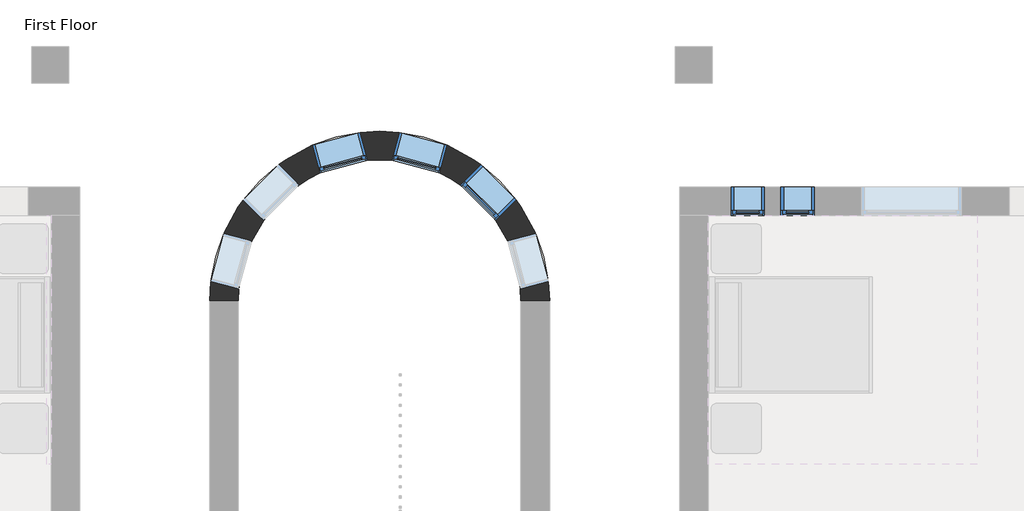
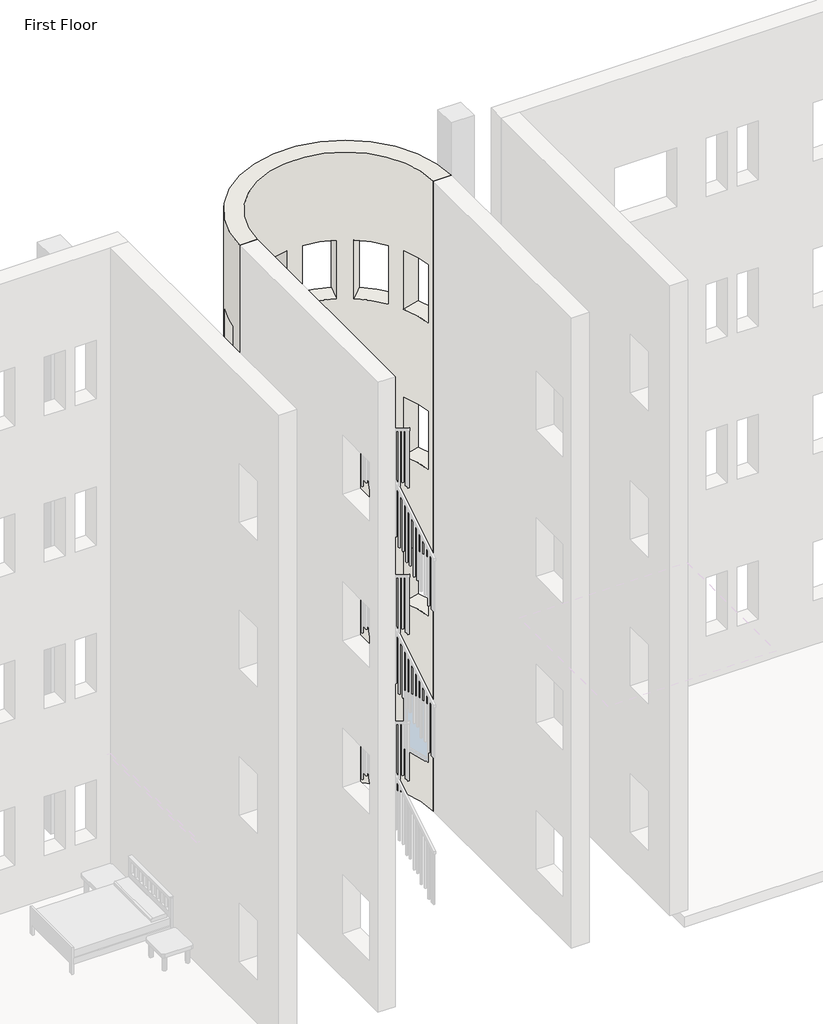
# One storey, part 15 of 22: 5 windows, 1 wall.
"""IFC4 building model written with IfcOpenShell, lengths in millimetres."""

from ifc_helpers import new_model, si_unit, frame, origin, place, context, project, spatial, polyline, circle_curve, transform, mapped, element, save
from ifc_brep_helpers import plane_surface, cylinder_surface, revolved_surface, advanced_brep
from components import m_fixed_0406_x_1220mm_57fee329, m_fixed_0610_x_1220mm_2c28ef1d, m_fixed_0610_x_1220mm_1ea27827

model = new_model("IFC4")

# Units and contexts
model_context = context("Model", 3, world=origin())
ifc_project = project(units=[si_unit("LENGTHUNIT", "METRE", prefix="MILLI")], contexts=[model_context])

# Site, building, storey
site = spatial("IfcSite", under=ifc_project)
building = spatial("IfcBuilding", under=site)
storey = spatial("IfcBuildingStorey", under=building, Name="First Floor", Elevation=0.0)

# Wall
placement = place(None, origin())
element("IfcWall", 1, ObjectType="Exterior - Brick on Mtl. Stud", at=placement, inside=storey, context=model_context, shape_type="AdvancedBrep", body=[
    advanced_brep(
    [(-16877.0916203, 1362.1188386, 13107.0), (-21037.0916203, 1362.1188386, 13107.0), (-20687.0916203, 1362.1188386, 13107.0), (-17227.0916203, 1362.1188386, 13107.0), (-21037.0916203, 1362.1188386, 0.0), (-16877.0916203, 1362.1188386, 0.0), (-17227.0916203, 1362.1188386, 0.0), (-20687.0916203, 1362.1188386, 0.0), (-20865.560337, 2189.250725, 915.0), (-20865.560337, 2189.250725, 2135.0), (-21023.4399545, 1600.035971, 2135.0), (-21023.4399545, 1600.035971, 915.0), (-19195.0087527, 3428.4671728, 915.0), (-19195.0087527, 3428.4671728, 2135.0), (-19784.2235068, 3270.5875553, 2135.0), (-19784.2235068, 3270.5875553, 915.0), (-20196.3080681, 3032.6704229, 915.0), (-20196.3080681, 3032.6704229, 2135.0), (-20627.6432046, 2601.3352863, 2135.0), (-20627.6432046, 2601.3352863, 915.0), (-17717.8751726, 3032.6704229, 915.0), (-17286.5400361, 2601.3352863, 915.0), (-17286.5400361, 2601.3352863, 2135.0), (-17717.8751726, 3032.6704229, 2135.0), (-18719.1744879, 3428.4671728, 915.0), (-18129.9597339, 3270.5875553, 915.0), (-18129.9597339, 3270.5875553, 2135.0), (-18719.1744879, 3428.4671728, 2135.0), (-17048.6229037, 2189.250725, 915.0), (-16890.7432862, 1600.035971, 915.0), (-16890.7432862, 1600.035971, 2135.0), (-17048.6229037, 2189.250725, 2135.0), (-17717.8751726, 3032.6704229, 10059.0), (-17286.5400361, 2601.3352863, 10059.0), (-17286.5400361, 2601.3352863, 11279.0), (-17717.8751726, 3032.6704229, 11279.0), (-18719.1744879, 3428.4671728, 10059.0), (-18129.9597339, 3270.5875553, 10059.0), (-18129.9597339, 3270.5875553, 11279.0), (-18719.1744879, 3428.4671728, 11279.0), (-17048.6229037, 2189.250725, 10059.0), (-16890.7432862, 1600.035971, 10059.0), (-16890.7432862, 1600.035971, 11279.0), (-17048.6229037, 2189.250725, 11279.0), (-20196.3080681, 3032.6704229, 10059.0), (-20196.3080681, 3032.6704229, 11279.0), (-20627.6432046, 2601.3352863, 11279.0), (-20627.6432046, 2601.3352863, 10059.0), (-19195.0087527, 3428.4671728, 10059.0), (-19195.0087527, 3428.4671728, 11279.0), (-19784.2235068, 3270.5875553, 11279.0), (-19784.2235068, 3270.5875553, 10059.0), (-20865.560337, 2189.250725, 10059.0), (-20865.560337, 2189.250725, 11279.0), (-21023.4399545, 1600.035971, 11279.0), (-21023.4399545, 1600.035971, 10059.0), (-17717.8751726, 3032.6704229, 3963.0), (-17286.5400361, 2601.3352863, 3963.0), (-17286.5400361, 2601.3352863, 5183.0), (-17717.8751726, 3032.6704229, 5183.0), (-18719.1744879, 3428.4671728, 3963.0), (-18129.9597339, 3270.5875553, 3963.0), (-18129.9597339, 3270.5875553, 5183.0), (-18719.1744879, 3428.4671728, 5183.0), (-17048.6229037, 2189.250725, 3963.0), (-16890.7432862, 1600.035971, 3963.0), (-16890.7432862, 1600.035971, 5183.0), (-17048.6229037, 2189.250725, 5183.0), (-20196.3080681, 3032.6704229, 3963.0), (-20196.3080681, 3032.6704229, 5183.0), (-20627.6432046, 2601.3352863, 5183.0), (-20627.6432046, 2601.3352863, 3963.0), (-19195.0087527, 3428.4671728, 3963.0), (-19195.0087527, 3428.4671728, 5183.0), (-19784.2235068, 3270.5875553, 5183.0), (-19784.2235068, 3270.5875553, 3963.0), (-20865.560337, 2189.250725, 3963.0), (-20865.560337, 2189.250725, 5183.0), (-21023.4399545, 1600.035971, 5183.0), (-21023.4399545, 1600.035971, 3963.0), (-17717.8751726, 3032.6704229, 7011.0), (-17286.5400361, 2601.3352863, 7011.0), (-17286.5400361, 2601.3352863, 8231.0), (-17717.8751726, 3032.6704229, 8231.0), (-18719.1744879, 3428.4671728, 7011.0), (-18129.9597339, 3270.5875553, 7011.0), (-18129.9597339, 3270.5875553, 8231.0), (-18719.1744879, 3428.4671728, 8231.0), (-17048.6229037, 2189.250725, 7011.0), (-16890.7432862, 1600.035971, 7011.0), (-16890.7432862, 1600.035971, 8231.0), (-17048.6229037, 2189.250725, 8231.0), (-20196.3080681, 3032.6704229, 7011.0), (-20196.3080681, 3032.6704229, 8231.0), (-20627.6432046, 2601.3352863, 8231.0), (-20627.6432046, 2601.3352863, 7011.0), (-19195.0087527, 3428.4671728, 7011.0), (-19195.0087527, 3428.4671728, 8231.0), (-19784.2235068, 3270.5875553, 8231.0), (-19784.2235068, 3270.5875553, 7011.0), (-20865.560337, 2189.250725, 7011.0), (-20865.560337, 2189.250725, 8231.0), (-21023.4399545, 1600.035971, 8231.0), (-21023.4399545, 1600.035971, 7011.0), (-20523.0287702, 2097.4696683, 2135.0), (-20523.0287702, 2097.4696683, 915.0), (-20680.9083877, 1508.2549143, 915.0), (-20680.9083877, 1508.2549143, 2135.0), (-19103.227696, 3085.935606, 2135.0), (-19103.227696, 3085.935606, 915.0), (-19692.44245, 2928.0559884, 915.0), (-19692.44245, 2928.0559884, 2135.0), (-19945.5575579, 2781.9199128, 915.0), (-20376.8926945, 2350.5847762, 915.0), (-20376.8926945, 2350.5847762, 2135.0), (-19945.5575579, 2781.9199128, 2135.0), (-17968.6256827, 2781.9199128, 915.0), (-17968.6256827, 2781.9199128, 2135.0), (-17537.2905462, 2350.5847762, 2135.0), (-17537.2905462, 2350.5847762, 915.0), (-18810.9555446, 3085.935606, 915.0), (-18810.9555446, 3085.935606, 2135.0), (-18221.7407906, 2928.0559884, 2135.0), (-18221.7407906, 2928.0559884, 915.0), (-17391.1544705, 2097.4696683, 915.0), (-17391.1544705, 2097.4696683, 2135.0), (-17233.274853, 1508.2549143, 2135.0), (-17233.274853, 1508.2549143, 915.0), (-17968.6256827, 2781.9199128, 10059.0), (-17968.6256827, 2781.9199128, 11279.0), (-17537.2905462, 2350.5847762, 11279.0), (-17537.2905462, 2350.5847762, 10059.0), (-18810.9555446, 3085.935606, 10059.0), (-18810.9555446, 3085.935606, 11279.0), (-18221.7407906, 2928.0559884, 11279.0), (-18221.7407906, 2928.0559884, 10059.0), (-17391.1544705, 2097.4696683, 10059.0), (-17391.1544705, 2097.4696683, 11279.0), (-17233.274853, 1508.2549143, 11279.0), (-17233.274853, 1508.2549143, 10059.0), (-19945.5575579, 2781.9199128, 10059.0), (-20376.8926945, 2350.5847762, 10059.0), (-20376.8926945, 2350.5847762, 11279.0), (-19945.5575579, 2781.9199128, 11279.0), (-19103.227696, 3085.935606, 10059.0), (-19692.44245, 2928.0559884, 10059.0), (-19692.44245, 2928.0559884, 11279.0), (-19103.227696, 3085.935606, 11279.0), (-20523.0287702, 2097.4696683, 10059.0), (-20680.9083877, 1508.2549143, 10059.0), (-20680.9083877, 1508.2549143, 11279.0), (-20523.0287702, 2097.4696683, 11279.0), (-17968.6256827, 2781.9199128, 3963.0), (-17968.6256827, 2781.9199128, 5183.0), (-17537.2905462, 2350.5847762, 5183.0), (-17537.2905462, 2350.5847762, 3963.0), (-18810.9555446, 3085.935606, 3963.0), (-18810.9555446, 3085.935606, 5183.0), (-18221.7407906, 2928.0559884, 5183.0), (-18221.7407906, 2928.0559884, 3963.0), (-17391.1544705, 2097.4696683, 3963.0), (-17391.1544705, 2097.4696683, 5183.0), (-17233.274853, 1508.2549143, 5183.0), (-17233.274853, 1508.2549143, 3963.0), (-19945.5575579, 2781.9199128, 3963.0), (-20376.8926945, 2350.5847762, 3963.0), (-20376.8926945, 2350.5847762, 5183.0), (-19945.5575579, 2781.9199128, 5183.0), (-19103.227696, 3085.935606, 3963.0), (-19692.44245, 2928.0559884, 3963.0), (-19692.44245, 2928.0559884, 5183.0), (-19103.227696, 3085.935606, 5183.0), (-20523.0287702, 2097.4696683, 3963.0), (-20680.9083877, 1508.2549143, 3963.0), (-20680.9083877, 1508.2549143, 5183.0), (-20523.0287702, 2097.4696683, 5183.0), (-17968.6256827, 2781.9199128, 7011.0), (-17968.6256827, 2781.9199128, 8231.0), (-17537.2905462, 2350.5847762, 8231.0), (-17537.2905462, 2350.5847762, 7011.0), (-18810.9555446, 3085.935606, 7011.0), (-18810.9555446, 3085.935606, 8231.0), (-18221.7407906, 2928.0559884, 8231.0), (-18221.7407906, 2928.0559884, 7011.0), (-17391.1544705, 2097.4696683, 7011.0), (-17391.1544705, 2097.4696683, 8231.0), (-17233.274853, 1508.2549143, 8231.0), (-17233.274853, 1508.2549143, 7011.0), (-19945.5575579, 2781.9199128, 7011.0), (-20376.8926945, 2350.5847762, 7011.0), (-20376.8926945, 2350.5847762, 8231.0), (-19945.5575579, 2781.9199128, 8231.0), (-19103.227696, 3085.935606, 7011.0), (-19692.44245, 2928.0559884, 7011.0), (-19692.44245, 2928.0559884, 8231.0), (-19103.227696, 3085.935606, 8231.0), (-20523.0287702, 2097.4696683, 7011.0), (-20680.9083877, 1508.2549143, 7011.0), (-20680.9083877, 1508.2549143, 8231.0), (-20523.0287702, 2097.4696683, 8231.0)],
    [
        (0, 1, circle_curve(frame((-18957.0916203, 1362.1188386, 13107.0), z_axis=(0.0, 0.0, 1.0), x_axis=(1.0, 0.0, 0.0)), 2080.0)),
        (1, 2),
        (2, 3, circle_curve(frame((-18957.0916203, 1362.1188386, 13107.0), z_axis=(0.0, 0.0, -1.0), x_axis=(1.0, 0.0, 0.0)), 1730.0)),
        (3, 0),
        (4, 5, circle_curve(frame((-18957.0916203, 1362.1188386, 0.0), z_axis=(0.0, 0.0, -1.0), x_axis=(1.0, 0.0, 0.0)), 2080.0)),
        (5, 6),
        (6, 7, circle_curve(frame((-18957.0916203, 1362.1188386, 0.0), z_axis=(0.0, 0.0, 1.0), x_axis=(1.0, 0.0, 0.0)), 1730.0)),
        (7, 4),
        (0, 5),
        (4, 1),
        (8, 9),
        (9, 10, circle_curve(frame((-18957.0916203, 1362.1188386, 2135.0), z_axis=(0.0, 0.0, 1.0), x_axis=(1.0, 0.0, 0.0)), 2080.0)),
        (10, 11),
        (11, 8, circle_curve(frame((-18957.0916203, 1362.1188386, 915.0), z_axis=(0.0, 0.0, -1.0), x_axis=(1.0, 0.0, 0.0)), 2080.0)),
        (12, 13),
        (13, 14, circle_curve(frame((-18957.0916203, 1362.1188386, 2135.0), z_axis=(0.0, 0.0, 1.0), x_axis=(1.0, 0.0, 0.0)), 2080.0)),
        (14, 15),
        (15, 12, circle_curve(frame((-18957.0916203, 1362.1188386, 915.0), z_axis=(0.0, 0.0, -1.0), x_axis=(1.0, 0.0, 0.0)), 2080.0)),
        (16, 17),
        (17, 18, circle_curve(frame((-18957.0916203, 1362.1188386, 2135.0), z_axis=(0.0, 0.0, 1.0), x_axis=(1.0, 0.0, 0.0)), 2080.0)),
        (18, 19),
        (19, 16, circle_curve(frame((-18957.0916203, 1362.1188386, 915.0), z_axis=(0.0, 0.0, -1.0), x_axis=(1.0, 0.0, 0.0)), 2080.0)),
        (20, 21, circle_curve(frame((-18957.0916203, 1362.1188386, 915.0), z_axis=(0.0, 0.0, -1.0), x_axis=(1.0, 0.0, 0.0)), 2080.0)),
        (21, 22),
        (22, 23, circle_curve(frame((-18957.0916203, 1362.1188386, 2135.0), z_axis=(0.0, 0.0, 1.0), x_axis=(1.0, 0.0, 0.0)), 2080.0)),
        (23, 20),
        (24, 25, circle_curve(frame((-18957.0916203, 1362.1188386, 915.0), z_axis=(0.0, 0.0, -1.0), x_axis=(1.0, 0.0, 0.0)), 2080.0)),
        (25, 26),
        (26, 27, circle_curve(frame((-18957.0916203, 1362.1188386, 2135.0), z_axis=(0.0, 0.0, 1.0), x_axis=(1.0, 0.0, 0.0)), 2080.0)),
        (27, 24),
        (28, 29, circle_curve(frame((-18957.0916203, 1362.1188386, 915.0), z_axis=(0.0, 0.0, -1.0), x_axis=(1.0, 0.0, 0.0)), 2080.0)),
        (29, 30),
        (30, 31, circle_curve(frame((-18957.0916203, 1362.1188386, 2135.0), z_axis=(0.0, 0.0, 1.0), x_axis=(1.0, 0.0, 0.0)), 2080.0)),
        (31, 28),
        (32, 33, circle_curve(frame((-18957.0916203, 1362.1188386, 10059.0), z_axis=(0.0, 0.0, -1.0), x_axis=(1.0, 0.0, 0.0)), 2080.0)),
        (33, 34),
        (34, 35, circle_curve(frame((-18957.0916203, 1362.1188386, 11279.0), z_axis=(0.0, 0.0, 1.0), x_axis=(1.0, 0.0, 0.0)), 2080.0)),
        (35, 32),
        (36, 37, circle_curve(frame((-18957.0916203, 1362.1188386, 10059.0), z_axis=(0.0, 0.0, -1.0), x_axis=(1.0, 0.0, 0.0)), 2080.0)),
        (37, 38),
        (38, 39, circle_curve(frame((-18957.0916203, 1362.1188386, 11279.0), z_axis=(0.0, 0.0, 1.0), x_axis=(1.0, 0.0, 0.0)), 2080.0)),
        (39, 36),
        (40, 41, circle_curve(frame((-18957.0916203, 1362.1188386, 10059.0), z_axis=(0.0, 0.0, -1.0), x_axis=(1.0, 0.0, 0.0)), 2080.0)),
        (41, 42),
        (42, 43, circle_curve(frame((-18957.0916203, 1362.1188386, 11279.0), z_axis=(0.0, 0.0, 1.0), x_axis=(1.0, 0.0, 0.0)), 2080.0)),
        (43, 40),
        (44, 45),
        (45, 46, circle_curve(frame((-18957.0916203, 1362.1188386, 11279.0), z_axis=(0.0, 0.0, 1.0), x_axis=(1.0, 0.0, 0.0)), 2080.0)),
        (46, 47),
        (47, 44, circle_curve(frame((-18957.0916203, 1362.1188386, 10059.0), z_axis=(0.0, 0.0, -1.0), x_axis=(1.0, 0.0, 0.0)), 2080.0)),
        (48, 49),
        (49, 50, circle_curve(frame((-18957.0916203, 1362.1188386, 11279.0), z_axis=(0.0, 0.0, 1.0), x_axis=(1.0, 0.0, 0.0)), 2080.0)),
        (50, 51),
        (51, 48, circle_curve(frame((-18957.0916203, 1362.1188386, 10059.0), z_axis=(0.0, 0.0, -1.0), x_axis=(1.0, 0.0, 0.0)), 2080.0)),
        (52, 53),
        (53, 54, circle_curve(frame((-18957.0916203, 1362.1188386, 11279.0), z_axis=(0.0, 0.0, 1.0), x_axis=(1.0, 0.0, 0.0)), 2080.0)),
        (54, 55),
        (55, 52, circle_curve(frame((-18957.0916203, 1362.1188386, 10059.0), z_axis=(0.0, 0.0, -1.0), x_axis=(1.0, 0.0, 0.0)), 2080.0)),
        (56, 57, circle_curve(frame((-18957.0916203, 1362.1188386, 3963.0), z_axis=(0.0, 0.0, -1.0), x_axis=(1.0, 0.0, 0.0)), 2080.0)),
        (57, 58),
        (58, 59, circle_curve(frame((-18957.0916203, 1362.1188386, 5183.0), z_axis=(0.0, 0.0, 1.0), x_axis=(1.0, 0.0, 0.0)), 2080.0)),
        (59, 56),
        (60, 61, circle_curve(frame((-18957.0916203, 1362.1188386, 3963.0), z_axis=(0.0, 0.0, -1.0), x_axis=(1.0, 0.0, 0.0)), 2080.0)),
        (61, 62),
        (62, 63, circle_curve(frame((-18957.0916203, 1362.1188386, 5183.0), z_axis=(0.0, 0.0, 1.0), x_axis=(1.0, 0.0, 0.0)), 2080.0)),
        (63, 60),
        (64, 65, circle_curve(frame((-18957.0916203, 1362.1188386, 3963.0), z_axis=(0.0, 0.0, -1.0), x_axis=(1.0, 0.0, 0.0)), 2080.0)),
        (65, 66),
        (66, 67, circle_curve(frame((-18957.0916203, 1362.1188386, 5183.0), z_axis=(0.0, 0.0, 1.0), x_axis=(1.0, 0.0, 0.0)), 2080.0)),
        (67, 64),
        (68, 69),
        (69, 70, circle_curve(frame((-18957.0916203, 1362.1188386, 5183.0), z_axis=(0.0, 0.0, 1.0), x_axis=(1.0, 0.0, 0.0)), 2080.0)),
        (70, 71),
        (71, 68, circle_curve(frame((-18957.0916203, 1362.1188386, 3963.0), z_axis=(0.0, 0.0, -1.0), x_axis=(1.0, 0.0, 0.0)), 2080.0)),
        (72, 73),
        (73, 74, circle_curve(frame((-18957.0916203, 1362.1188386, 5183.0), z_axis=(0.0, 0.0, 1.0), x_axis=(1.0, 0.0, 0.0)), 2080.0)),
        (74, 75),
        (75, 72, circle_curve(frame((-18957.0916203, 1362.1188386, 3963.0), z_axis=(0.0, 0.0, -1.0), x_axis=(1.0, 0.0, 0.0)), 2080.0)),
        (76, 77),
        (77, 78, circle_curve(frame((-18957.0916203, 1362.1188386, 5183.0), z_axis=(0.0, 0.0, 1.0), x_axis=(1.0, 0.0, 0.0)), 2080.0)),
        (78, 79),
        (79, 76, circle_curve(frame((-18957.0916203, 1362.1188386, 3963.0), z_axis=(0.0, 0.0, -1.0), x_axis=(1.0, 0.0, 0.0)), 2080.0)),
        (80, 81, circle_curve(frame((-18957.0916203, 1362.1188386, 7011.0), z_axis=(0.0, 0.0, -1.0), x_axis=(1.0, 0.0, 0.0)), 2080.0)),
        (81, 82),
        (82, 83, circle_curve(frame((-18957.0916203, 1362.1188386, 8231.0), z_axis=(0.0, 0.0, 1.0), x_axis=(1.0, 0.0, 0.0)), 2080.0)),
        (83, 80),
        (84, 85, circle_curve(frame((-18957.0916203, 1362.1188386, 7011.0), z_axis=(0.0, 0.0, -1.0), x_axis=(1.0, 0.0, 0.0)), 2080.0)),
        (85, 86),
        (86, 87, circle_curve(frame((-18957.0916203, 1362.1188386, 8231.0), z_axis=(0.0, 0.0, 1.0), x_axis=(1.0, 0.0, 0.0)), 2080.0)),
        (87, 84),
        (88, 89, circle_curve(frame((-18957.0916203, 1362.1188386, 7011.0), z_axis=(0.0, 0.0, -1.0), x_axis=(1.0, 0.0, 0.0)), 2080.0)),
        (89, 90),
        (90, 91, circle_curve(frame((-18957.0916203, 1362.1188386, 8231.0), z_axis=(0.0, 0.0, 1.0), x_axis=(1.0, 0.0, 0.0)), 2080.0)),
        (91, 88),
        (92, 93),
        (93, 94, circle_curve(frame((-18957.0916203, 1362.1188386, 8231.0), z_axis=(0.0, 0.0, 1.0), x_axis=(1.0, 0.0, 0.0)), 2080.0)),
        (94, 95),
        (95, 92, circle_curve(frame((-18957.0916203, 1362.1188386, 7011.0), z_axis=(0.0, 0.0, -1.0), x_axis=(1.0, 0.0, 0.0)), 2080.0)),
        (96, 97),
        (97, 98, circle_curve(frame((-18957.0916203, 1362.1188386, 8231.0), z_axis=(0.0, 0.0, 1.0), x_axis=(1.0, 0.0, 0.0)), 2080.0)),
        (98, 99),
        (99, 96, circle_curve(frame((-18957.0916203, 1362.1188386, 7011.0), z_axis=(0.0, 0.0, -1.0), x_axis=(1.0, 0.0, 0.0)), 2080.0)),
        (100, 101),
        (101, 102, circle_curve(frame((-18957.0916203, 1362.1188386, 8231.0), z_axis=(0.0, 0.0, 1.0), x_axis=(1.0, 0.0, 0.0)), 2080.0)),
        (102, 103),
        (103, 100, circle_curve(frame((-18957.0916203, 1362.1188386, 7011.0), z_axis=(0.0, 0.0, -1.0), x_axis=(1.0, 0.0, 0.0)), 2080.0)),
        (7, 2),
        (6, 3),
        (104, 105),
        (105, 106, circle_curve(frame((-18957.0916203, 1362.1188386, 915.0), z_axis=(0.0, 0.0, 1.0), x_axis=(1.0, 0.0, 0.0)), 1730.0)),
        (106, 107),
        (107, 104, circle_curve(frame((-18957.0916203, 1362.1188386, 2135.0), z_axis=(0.0, 0.0, -1.0), x_axis=(1.0, 0.0, 0.0)), 1730.0)),
        (108, 109),
        (109, 110, circle_curve(frame((-18957.0916203, 1362.1188386, 915.0), z_axis=(0.0, 0.0, 1.0), x_axis=(1.0, 0.0, 0.0)), 1730.0)),
        (110, 111),
        (111, 108, circle_curve(frame((-18957.0916203, 1362.1188386, 2135.0), z_axis=(0.0, 0.0, -1.0), x_axis=(1.0, 0.0, 0.0)), 1730.0)),
        (112, 113, circle_curve(frame((-18957.0916203, 1362.1188386, 915.0), z_axis=(0.0, 0.0, 1.0), x_axis=(1.0, 0.0, 0.0)), 1730.0)),
        (113, 114),
        (114, 115, circle_curve(frame((-18957.0916203, 1362.1188386, 2135.0), z_axis=(0.0, 0.0, -1.0), x_axis=(1.0, 0.0, 0.0)), 1730.0)),
        (115, 112),
        (116, 117),
        (117, 118, circle_curve(frame((-18957.0916203, 1362.1188386, 2135.0), z_axis=(0.0, 0.0, -1.0), x_axis=(1.0, 0.0, 0.0)), 1730.0)),
        (118, 119),
        (119, 116, circle_curve(frame((-18957.0916203, 1362.1188386, 915.0), z_axis=(0.0, 0.0, 1.0), x_axis=(1.0, 0.0, 0.0)), 1730.0)),
        (120, 121),
        (121, 122, circle_curve(frame((-18957.0916203, 1362.1188386, 2135.0), z_axis=(0.0, 0.0, -1.0), x_axis=(1.0, 0.0, 0.0)), 1730.0)),
        (122, 123),
        (123, 120, circle_curve(frame((-18957.0916203, 1362.1188386, 915.0), z_axis=(0.0, 0.0, 1.0), x_axis=(1.0, 0.0, 0.0)), 1730.0)),
        (124, 125),
        (125, 126, circle_curve(frame((-18957.0916203, 1362.1188386, 2135.0), z_axis=(0.0, 0.0, -1.0), x_axis=(1.0, 0.0, 0.0)), 1730.0)),
        (126, 127),
        (127, 124, circle_curve(frame((-18957.0916203, 1362.1188386, 915.0), z_axis=(0.0, 0.0, 1.0), x_axis=(1.0, 0.0, 0.0)), 1730.0)),
        (128, 129),
        (129, 130, circle_curve(frame((-18957.0916203, 1362.1188386, 11279.0), z_axis=(0.0, 0.0, -1.0), x_axis=(1.0, 0.0, 0.0)), 1730.0)),
        (130, 131),
        (131, 128, circle_curve(frame((-18957.0916203, 1362.1188386, 10059.0), z_axis=(0.0, 0.0, 1.0), x_axis=(1.0, 0.0, 0.0)), 1730.0)),
        (132, 133),
        (133, 134, circle_curve(frame((-18957.0916203, 1362.1188386, 11279.0), z_axis=(0.0, 0.0, -1.0), x_axis=(1.0, 0.0, 0.0)), 1730.0)),
        (134, 135),
        (135, 132, circle_curve(frame((-18957.0916203, 1362.1188386, 10059.0), z_axis=(0.0, 0.0, 1.0), x_axis=(1.0, 0.0, 0.0)), 1730.0)),
        (136, 137),
        (137, 138, circle_curve(frame((-18957.0916203, 1362.1188386, 11279.0), z_axis=(0.0, 0.0, -1.0), x_axis=(1.0, 0.0, 0.0)), 1730.0)),
        (138, 139),
        (139, 136, circle_curve(frame((-18957.0916203, 1362.1188386, 10059.0), z_axis=(0.0, 0.0, 1.0), x_axis=(1.0, 0.0, 0.0)), 1730.0)),
        (140, 141, circle_curve(frame((-18957.0916203, 1362.1188386, 10059.0), z_axis=(0.0, 0.0, 1.0), x_axis=(1.0, 0.0, 0.0)), 1730.0)),
        (141, 142),
        (142, 143, circle_curve(frame((-18957.0916203, 1362.1188386, 11279.0), z_axis=(0.0, 0.0, -1.0), x_axis=(1.0, 0.0, 0.0)), 1730.0)),
        (143, 140),
        (144, 145, circle_curve(frame((-18957.0916203, 1362.1188386, 10059.0), z_axis=(0.0, 0.0, 1.0), x_axis=(1.0, 0.0, 0.0)), 1730.0)),
        (145, 146),
        (146, 147, circle_curve(frame((-18957.0916203, 1362.1188386, 11279.0), z_axis=(0.0, 0.0, -1.0), x_axis=(1.0, 0.0, 0.0)), 1730.0)),
        (147, 144),
        (148, 149, circle_curve(frame((-18957.0916203, 1362.1188386, 10059.0), z_axis=(0.0, 0.0, 1.0), x_axis=(1.0, 0.0, 0.0)), 1730.0)),
        (149, 150),
        (150, 151, circle_curve(frame((-18957.0916203, 1362.1188386, 11279.0), z_axis=(0.0, 0.0, -1.0), x_axis=(1.0, 0.0, 0.0)), 1730.0)),
        (151, 148),
        (152, 153),
        (153, 154, circle_curve(frame((-18957.0916203, 1362.1188386, 5183.0), z_axis=(0.0, 0.0, -1.0), x_axis=(1.0, 0.0, 0.0)), 1730.0)),
        (154, 155),
        (155, 152, circle_curve(frame((-18957.0916203, 1362.1188386, 3963.0), z_axis=(0.0, 0.0, 1.0), x_axis=(1.0, 0.0, 0.0)), 1730.0)),
        (156, 157),
        (157, 158, circle_curve(frame((-18957.0916203, 1362.1188386, 5183.0), z_axis=(0.0, 0.0, -1.0), x_axis=(1.0, 0.0, 0.0)), 1730.0)),
        (158, 159),
        (159, 156, circle_curve(frame((-18957.0916203, 1362.1188386, 3963.0), z_axis=(0.0, 0.0, 1.0), x_axis=(1.0, 0.0, 0.0)), 1730.0)),
        (160, 161),
        (161, 162, circle_curve(frame((-18957.0916203, 1362.1188386, 5183.0), z_axis=(0.0, 0.0, -1.0), x_axis=(1.0, 0.0, 0.0)), 1730.0)),
        (162, 163),
        (163, 160, circle_curve(frame((-18957.0916203, 1362.1188386, 3963.0), z_axis=(0.0, 0.0, 1.0), x_axis=(1.0, 0.0, 0.0)), 1730.0)),
        (164, 165, circle_curve(frame((-18957.0916203, 1362.1188386, 3963.0), z_axis=(0.0, 0.0, 1.0), x_axis=(1.0, 0.0, 0.0)), 1730.0)),
        (165, 166),
        (166, 167, circle_curve(frame((-18957.0916203, 1362.1188386, 5183.0), z_axis=(0.0, 0.0, -1.0), x_axis=(1.0, 0.0, 0.0)), 1730.0)),
        (167, 164),
        (168, 169, circle_curve(frame((-18957.0916203, 1362.1188386, 3963.0), z_axis=(0.0, 0.0, 1.0), x_axis=(1.0, 0.0, 0.0)), 1730.0)),
        (169, 170),
        (170, 171, circle_curve(frame((-18957.0916203, 1362.1188386, 5183.0), z_axis=(0.0, 0.0, -1.0), x_axis=(1.0, 0.0, 0.0)), 1730.0)),
        (171, 168),
        (172, 173, circle_curve(frame((-18957.0916203, 1362.1188386, 3963.0), z_axis=(0.0, 0.0, 1.0), x_axis=(1.0, 0.0, 0.0)), 1730.0)),
        (173, 174),
        (174, 175, circle_curve(frame((-18957.0916203, 1362.1188386, 5183.0), z_axis=(0.0, 0.0, -1.0), x_axis=(1.0, 0.0, 0.0)), 1730.0)),
        (175, 172),
        (176, 177),
        (177, 178, circle_curve(frame((-18957.0916203, 1362.1188386, 8231.0), z_axis=(0.0, 0.0, -1.0), x_axis=(1.0, 0.0, 0.0)), 1730.0)),
        (178, 179),
        (179, 176, circle_curve(frame((-18957.0916203, 1362.1188386, 7011.0), z_axis=(0.0, 0.0, 1.0), x_axis=(1.0, 0.0, 0.0)), 1730.0)),
        (180, 181),
        (181, 182, circle_curve(frame((-18957.0916203, 1362.1188386, 8231.0), z_axis=(0.0, 0.0, -1.0), x_axis=(1.0, 0.0, 0.0)), 1730.0)),
        (182, 183),
        (183, 180, circle_curve(frame((-18957.0916203, 1362.1188386, 7011.0), z_axis=(0.0, 0.0, 1.0), x_axis=(1.0, 0.0, 0.0)), 1730.0)),
        (184, 185),
        (185, 186, circle_curve(frame((-18957.0916203, 1362.1188386, 8231.0), z_axis=(0.0, 0.0, -1.0), x_axis=(1.0, 0.0, 0.0)), 1730.0)),
        (186, 187),
        (187, 184, circle_curve(frame((-18957.0916203, 1362.1188386, 7011.0), z_axis=(0.0, 0.0, 1.0), x_axis=(1.0, 0.0, 0.0)), 1730.0)),
        (188, 189, circle_curve(frame((-18957.0916203, 1362.1188386, 7011.0), z_axis=(0.0, 0.0, 1.0), x_axis=(1.0, 0.0, 0.0)), 1730.0)),
        (189, 190),
        (190, 191, circle_curve(frame((-18957.0916203, 1362.1188386, 8231.0), z_axis=(0.0, 0.0, -1.0), x_axis=(1.0, 0.0, 0.0)), 1730.0)),
        (191, 188),
        (192, 193, circle_curve(frame((-18957.0916203, 1362.1188386, 7011.0), z_axis=(0.0, 0.0, 1.0), x_axis=(1.0, 0.0, 0.0)), 1730.0)),
        (193, 194),
        (194, 195, circle_curve(frame((-18957.0916203, 1362.1188386, 8231.0), z_axis=(0.0, 0.0, -1.0), x_axis=(1.0, 0.0, 0.0)), 1730.0)),
        (195, 192),
        (196, 197, circle_curve(frame((-18957.0916203, 1362.1188386, 7011.0), z_axis=(0.0, 0.0, 1.0), x_axis=(1.0, 0.0, 0.0)), 1730.0)),
        (197, 198),
        (198, 199, circle_curve(frame((-18957.0916203, 1362.1188386, 8231.0), z_axis=(0.0, 0.0, -1.0), x_axis=(1.0, 0.0, 0.0)), 1730.0)),
        (199, 196),
        (8, 105),
        (104, 9),
        (107, 10),
        (106, 11),
        (12, 109),
        (108, 13),
        (111, 14),
        (110, 15),
        (16, 112),
        (115, 17),
        (114, 18),
        (113, 19),
        (116, 20),
        (23, 117),
        (22, 118),
        (21, 119),
        (120, 24),
        (27, 121),
        (26, 122),
        (25, 123),
        (124, 28),
        (31, 125),
        (30, 126),
        (29, 127),
        (128, 32),
        (35, 129),
        (34, 130),
        (33, 131),
        (132, 36),
        (39, 133),
        (38, 134),
        (37, 135),
        (136, 40),
        (43, 137),
        (42, 138),
        (41, 139),
        (44, 140),
        (143, 45),
        (142, 46),
        (141, 47),
        (48, 144),
        (147, 49),
        (146, 50),
        (145, 51),
        (52, 148),
        (151, 53),
        (150, 54),
        (149, 55),
        (152, 56),
        (59, 153),
        (58, 154),
        (57, 155),
        (156, 60),
        (63, 157),
        (62, 158),
        (61, 159),
        (160, 64),
        (67, 161),
        (66, 162),
        (65, 163),
        (68, 164),
        (167, 69),
        (166, 70),
        (165, 71),
        (72, 168),
        (171, 73),
        (170, 74),
        (169, 75),
        (76, 172),
        (175, 77),
        (174, 78),
        (173, 79),
        (176, 80),
        (83, 177),
        (82, 178),
        (81, 179),
        (180, 84),
        (87, 181),
        (86, 182),
        (85, 183),
        (184, 88),
        (91, 185),
        (90, 186),
        (89, 187),
        (92, 188),
        (191, 93),
        (190, 94),
        (189, 95),
        (96, 192),
        (195, 97),
        (194, 98),
        (193, 99),
        (100, 196),
        (199, 101),
        (198, 102),
        (197, 103),
    ],
    [
        plane_surface(frame((-16877.0916203, 1362.1188386, 13107.0), z_axis=(0.0, 0.0, 1.0), x_axis=(0.0, 1.0, 0.0))),
        plane_surface(frame((-16877.0916203, 1362.1188386, 0.0), z_axis=(0.0, 0.0, -1.0), x_axis=(0.0, -1.0, 0.0))),
        cylinder_surface(frame((-18957.0916203, 1362.1188386, 0.0), z_axis=(0.0, 0.0, 1.0), x_axis=(1.0, 0.0, 0.0)), 2080.0),
        plane_surface(frame((-21037.0916203, 1362.1188386, 13107.0), z_axis=(0.0, -1.0, 0.0), x_axis=(0.0, 0.0, -1.0))),
        revolved_surface(polyline([(-17227.0916203, 1362.1188386, 0.0), (-17227.0916203, 1362.1188386, 13107.0)]), (-18957.0916203, 1362.1188386, 0.0), (0.0, 0.0, -1.0)),
        plane_surface(frame((-17227.0916203, 1362.1188386, 13107.0), z_axis=(0.0, -1.0, 0.0), x_axis=(0.0, 0.0, -1.0))),
        plane_surface(frame((-20865.560337, 2189.250725, 915.0), z_axis=(-0.2588190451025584, -0.9659258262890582, 0.0), x_axis=(0.9659258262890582, -0.2588190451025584, 0.0))),
        plane_surface(frame((-20865.560337, 2189.250725, 2135.0), z_axis=(0.0, 0.0, -1.0000000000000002), x_axis=(0.9659258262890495, -0.25881904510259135, 0.0))),
        plane_surface(frame((-21023.4399545, 1600.035971, 2135.0), z_axis=(0.25881904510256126, 0.9659258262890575, 0.0), x_axis=(0.9659258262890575, -0.25881904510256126, 0.0))),
        plane_surface(frame((-21023.4399545, 1600.035971, 915.0), z_axis=(0.0, 0.0, 1.0), x_axis=(0.96592582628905, -0.258819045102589, 0.0))),
        plane_surface(frame((-18800.568528, 1956.3962135, 915.0), z_axis=(-0.9659258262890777, -0.25881904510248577, 0.0), x_axis=(-0.25881904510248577, 0.9659258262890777, 0.0))),
        plane_surface(frame((-18800.568528, 1956.3962135, 2135.0), z_axis=(0.0, 0.0, -1.0000000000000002), x_axis=(-0.25881904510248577, 0.9659258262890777, 0.0))),
        plane_surface(frame((-19389.783282, 1798.516596, 2135.0), z_axis=(0.9659258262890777, 0.25881904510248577, 0.0), x_axis=(-0.25881904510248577, 0.9659258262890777, 0.0))),
        plane_surface(frame((-19389.783282, 1798.516596, 915.0), z_axis=(0.0, 0.0, 1.0000000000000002), x_axis=(-0.25881904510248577, 0.9659258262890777, 0.0))),
        plane_surface(frame((-20196.3080681, 3032.6704229, 915.0), z_axis=(-0.7071067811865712, -0.7071067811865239, 0.0), x_axis=(0.7071067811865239, -0.7071067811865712, 0.0))),
        plane_surface(frame((-20196.3080681, 3032.6704229, 2135.0), z_axis=(0.0, 0.0, -1.0), x_axis=(0.7071067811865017, -0.7071067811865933, 0.0))),
        plane_surface(frame((-20627.6432046, 2601.3352863, 2135.0), z_axis=(0.7071067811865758, 0.7071067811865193, 0.0), x_axis=(0.7071067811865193, -0.7071067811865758, 0.0))),
        plane_surface(frame((-20627.6432046, 2601.3352863, 915.0), z_axis=(0.0, 0.0, 1.0), x_axis=(0.7071067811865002, -0.7071067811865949, 0.0))),
        plane_surface(frame((-17968.6256827, 2781.9199128, 915.0), z_axis=(0.7071067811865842, -0.7071067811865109, 0.0), x_axis=(0.7071067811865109, 0.7071067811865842, 0.0))),
        plane_surface(frame((-17968.6256827, 2781.9199128, 2135.0), z_axis=(0.0, 0.0, -1.0000000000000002), x_axis=(0.7071067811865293, 0.7071067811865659, 0.0))),
        plane_surface(frame((-17537.2905462, 2350.5847762, 2135.0), z_axis=(-0.707106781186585, 0.7071067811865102, 0.0), x_axis=(0.7071067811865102, 0.707106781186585, 0.0))),
        plane_surface(frame((-17537.2905462, 2350.5847762, 915.0), z_axis=(0.0, 0.0, 1.0), x_axis=(0.7071067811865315, 0.7071067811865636, 0.0))),
        plane_surface(frame((-18810.9555446, 3085.935606, 915.0), z_axis=(0.965925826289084, -0.25881904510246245, 0.0), x_axis=(0.25881904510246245, 0.965925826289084, 0.0))),
        plane_surface(frame((-18810.9555446, 3085.935606, 2135.0), z_axis=(0.0, 0.0, -1.0), x_axis=(0.2588190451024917, 0.9659258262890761, 0.0))),
        plane_surface(frame((-18221.7407906, 2928.0559884, 2135.0), z_axis=(-0.9659258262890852, 0.2588190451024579, 0.0), x_axis=(0.2588190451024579, 0.9659258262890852, 0.0))),
        plane_surface(frame((-18221.7407906, 2928.0559884, 915.0), z_axis=(0.0, 0.0, 1.0000000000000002), x_axis=(0.2588190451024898, 0.9659258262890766, 0.0))),
        plane_surface(frame((-17391.1544705, 2097.4696683, 915.0), z_axis=(0.25881904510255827, -0.9659258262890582, 0.0), x_axis=(0.9659258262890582, 0.25881904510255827, 0.0))),
        plane_surface(frame((-17391.1544705, 2097.4696683, 2135.0), z_axis=(0.0, 0.0, -1.0), x_axis=(0.9659258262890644, 0.25881904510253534, 0.0))),
        plane_surface(frame((-17233.274853, 1508.2549143, 2135.0), z_axis=(-0.2588190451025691, 0.9659258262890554, 0.0), x_axis=(0.9659258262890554, 0.2588190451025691, 0.0))),
        plane_surface(frame((-17233.274853, 1508.2549143, 915.0), z_axis=(0.0, 0.0, 1.0), x_axis=(0.9659258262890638, 0.2588190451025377, 0.0))),
        plane_surface(frame((-17968.6256827, 2781.9199128, 10059.0), z_axis=(0.7071067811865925, -0.7071067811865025, 0.0), x_axis=(0.7071067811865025, 0.7071067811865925, 0.0))),
        plane_surface(frame((-17968.6256827, 2781.9199128, 11279.0), z_axis=(0.0, 0.0, -1.0000000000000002), x_axis=(0.7071067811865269, 0.7071067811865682, 0.0))),
        plane_surface(frame((-17537.2905462, 2350.5847762, 11279.0), z_axis=(-0.7071067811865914, 0.7071067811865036, 0.0), x_axis=(0.7071067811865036, 0.7071067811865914, 0.0))),
        plane_surface(frame((-17537.2905462, 2350.5847762, 10059.0), z_axis=(0.0, 0.0, 1.0000000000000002), x_axis=(0.7071067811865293, 0.7071067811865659, 0.0))),
        plane_surface(frame((-18810.9555446, 3085.935606, 10059.0), z_axis=(0.9659258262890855, -0.2588190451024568, 0.0), x_axis=(0.2588190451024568, 0.9659258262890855, 0.0))),
        plane_surface(frame((-18810.9555446, 3085.935606, 11279.0), z_axis=(0.0, 0.0, -1.0), x_axis=(0.2588190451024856, 0.9659258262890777, 0.0))),
        plane_surface(frame((-18221.7407906, 2928.0559884, 11279.0), z_axis=(-0.9659258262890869, 0.25881904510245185, 0.0), x_axis=(0.25881904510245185, 0.9659258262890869, 0.0))),
        plane_surface(frame((-18221.7407906, 2928.0559884, 10059.0), z_axis=(0.0, 0.0, 1.0000000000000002), x_axis=(0.2588190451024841, 0.9659258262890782, 0.0))),
        plane_surface(frame((-17391.1544705, 2097.4696683, 10059.0), z_axis=(0.2588190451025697, -0.9659258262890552, 0.0), x_axis=(0.9659258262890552, 0.2588190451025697, 0.0))),
        plane_surface(frame((-17391.1544705, 2097.4696683, 11279.0), z_axis=(0.0, 0.0, -1.0000000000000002), x_axis=(0.9659258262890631, 0.2588190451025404, 0.0))),
        plane_surface(frame((-17233.274853, 1508.2549143, 11279.0), z_axis=(-0.25881904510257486, 0.9659258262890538, 0.0), x_axis=(0.9659258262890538, 0.25881904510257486, 0.0))),
        plane_surface(frame((-17233.274853, 1508.2549143, 10059.0), z_axis=(0.0, 0.0, 1.0000000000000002), x_axis=(0.9659258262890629, 0.25881904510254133, 0.0))),
        plane_surface(frame((-20196.3080681, 3032.6704229, 10059.0), z_axis=(-0.7071067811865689, -0.7071067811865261, 0.0), x_axis=(0.7071067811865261, -0.7071067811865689, 0.0))),
        plane_surface(frame((-20196.3080681, 3032.6704229, 11279.0), z_axis=(0.0, 0.0, -1.0), x_axis=(0.7071067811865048, -0.7071067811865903, 0.0))),
        plane_surface(frame((-20627.6432046, 2601.3352863, 11279.0), z_axis=(0.7071067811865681, 0.7071067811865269, 0.0), x_axis=(0.7071067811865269, -0.7071067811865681, 0.0))),
        plane_surface(frame((-20627.6432046, 2601.3352863, 10059.0), z_axis=(0.0, 0.0, 1.0), x_axis=(0.7071067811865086, -0.7071067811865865, 0.0))),
        plane_surface(frame((-19195.0087527, 3428.4671728, 10059.0), z_axis=(-0.9659258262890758, -0.2588190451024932, 0.0), x_axis=(0.2588190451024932, -0.9659258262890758, 0.0))),
        plane_surface(frame((-19195.0087527, 3428.4671728, 11279.0), z_axis=(0.0, 0.0, -1.0), x_axis=(0.25881904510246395, -0.9659258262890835, 0.0))),
        plane_surface(frame((-19784.2235068, 3270.5875553, 11279.0), z_axis=(0.9659258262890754, 0.25881904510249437, 0.0), x_axis=(0.25881904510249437, -0.9659258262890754, 0.0))),
        plane_surface(frame((-19784.2235068, 3270.5875553, 10059.0), z_axis=(0.0, 0.0, 1.0000000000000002), x_axis=(0.2588190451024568, -0.9659258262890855, 0.0))),
        plane_surface(frame((-20865.560337, 2189.250725, 10059.0), z_axis=(-0.25881904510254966, -0.9659258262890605, 0.0), x_axis=(0.9659258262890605, -0.25881904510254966, 0.0))),
        plane_surface(frame((-20865.560337, 2189.250725, 11279.0), z_axis=(0.0, 0.0, -1.0), x_axis=(0.9659258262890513, -0.25881904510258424, 0.0))),
        plane_surface(frame((-21023.4399545, 1600.035971, 11279.0), z_axis=(0.2588190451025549, 0.9659258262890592, 0.0), x_axis=(0.9659258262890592, -0.2588190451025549, 0.0))),
        plane_surface(frame((-21023.4399545, 1600.035971, 10059.0), z_axis=(0.0, 0.0, 1.0000000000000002), x_axis=(0.9659258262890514, -0.258819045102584, 0.0))),
        plane_surface(frame((-17968.6256827, 2781.9199128, 3963.0), z_axis=(0.7071067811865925, -0.7071067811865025, 0.0), x_axis=(0.7071067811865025, 0.7071067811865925, 0.0))),
        plane_surface(frame((-17968.6256827, 2781.9199128, 5183.0), z_axis=(0.0, 0.0, -1.0000000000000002), x_axis=(0.7071067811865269, 0.7071067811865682, 0.0))),
        plane_surface(frame((-17537.2905462, 2350.5847762, 5183.0), z_axis=(-0.7071067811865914, 0.7071067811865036, 0.0), x_axis=(0.7071067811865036, 0.7071067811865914, 0.0))),
        plane_surface(frame((-17537.2905462, 2350.5847762, 3963.0), z_axis=(0.0, 0.0, 1.0000000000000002), x_axis=(0.7071067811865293, 0.7071067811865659, 0.0))),
        plane_surface(frame((-18810.9555446, 3085.935606, 3963.0), z_axis=(0.9659258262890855, -0.2588190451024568, 0.0), x_axis=(0.2588190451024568, 0.9659258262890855, 0.0))),
        plane_surface(frame((-18810.9555446, 3085.935606, 5183.0), z_axis=(0.0, 0.0, -1.0), x_axis=(0.2588190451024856, 0.9659258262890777, 0.0))),
        plane_surface(frame((-18221.7407906, 2928.0559884, 5183.0), z_axis=(-0.9659258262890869, 0.25881904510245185, 0.0), x_axis=(0.25881904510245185, 0.9659258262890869, 0.0))),
        plane_surface(frame((-18221.7407906, 2928.0559884, 3963.0), z_axis=(0.0, 0.0, 1.0000000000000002), x_axis=(0.2588190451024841, 0.9659258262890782, 0.0))),
        plane_surface(frame((-17391.1544705, 2097.4696683, 3963.0), z_axis=(0.2588190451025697, -0.9659258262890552, 0.0), x_axis=(0.9659258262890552, 0.2588190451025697, 0.0))),
        plane_surface(frame((-17391.1544705, 2097.4696683, 5183.0), z_axis=(0.0, 0.0, -1.0000000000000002), x_axis=(0.9659258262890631, 0.2588190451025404, 0.0))),
        plane_surface(frame((-17233.274853, 1508.2549143, 5183.0), z_axis=(-0.25881904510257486, 0.9659258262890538, 0.0), x_axis=(0.9659258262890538, 0.25881904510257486, 0.0))),
        plane_surface(frame((-17233.274853, 1508.2549143, 3963.0), z_axis=(0.0, 0.0, 1.0000000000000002), x_axis=(0.9659258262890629, 0.25881904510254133, 0.0))),
        plane_surface(frame((-20196.3080681, 3032.6704229, 3963.0), z_axis=(-0.7071067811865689, -0.7071067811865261, 0.0), x_axis=(0.7071067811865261, -0.7071067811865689, 0.0))),
        plane_surface(frame((-20196.3080681, 3032.6704229, 5183.0), z_axis=(0.0, 0.0, -1.0), x_axis=(0.7071067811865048, -0.7071067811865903, 0.0))),
        plane_surface(frame((-20627.6432046, 2601.3352863, 5183.0), z_axis=(0.7071067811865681, 0.7071067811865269, 0.0), x_axis=(0.7071067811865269, -0.7071067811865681, 0.0))),
        plane_surface(frame((-20627.6432046, 2601.3352863, 3963.0), z_axis=(0.0, 0.0, 1.0), x_axis=(0.7071067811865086, -0.7071067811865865, 0.0))),
        plane_surface(frame((-19195.0087527, 3428.4671728, 3963.0), z_axis=(-0.9659258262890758, -0.2588190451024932, 0.0), x_axis=(0.2588190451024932, -0.9659258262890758, 0.0))),
        plane_surface(frame((-19195.0087527, 3428.4671728, 5183.0), z_axis=(0.0, 0.0, -1.0), x_axis=(0.25881904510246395, -0.9659258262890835, 0.0))),
        plane_surface(frame((-19784.2235068, 3270.5875553, 5183.0), z_axis=(0.9659258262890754, 0.25881904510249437, 0.0), x_axis=(0.25881904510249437, -0.9659258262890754, 0.0))),
        plane_surface(frame((-19784.2235068, 3270.5875553, 3963.0), z_axis=(0.0, 0.0, 1.0000000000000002), x_axis=(0.2588190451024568, -0.9659258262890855, 0.0))),
        plane_surface(frame((-20865.560337, 2189.250725, 3963.0), z_axis=(-0.25881904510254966, -0.9659258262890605, 0.0), x_axis=(0.9659258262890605, -0.25881904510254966, 0.0))),
        plane_surface(frame((-20865.560337, 2189.250725, 5183.0), z_axis=(0.0, 0.0, -1.0), x_axis=(0.9659258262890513, -0.25881904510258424, 0.0))),
        plane_surface(frame((-21023.4399545, 1600.035971, 5183.0), z_axis=(0.2588190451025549, 0.9659258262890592, 0.0), x_axis=(0.9659258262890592, -0.2588190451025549, 0.0))),
        plane_surface(frame((-21023.4399545, 1600.035971, 3963.0), z_axis=(0.0, 0.0, 1.0000000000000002), x_axis=(0.9659258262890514, -0.258819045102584, 0.0))),
        plane_surface(frame((-17968.6256827, 2781.9199128, 7011.0), z_axis=(0.7071067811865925, -0.7071067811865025, 0.0), x_axis=(0.7071067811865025, 0.7071067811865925, 0.0))),
        plane_surface(frame((-17968.6256827, 2781.9199128, 8231.0), z_axis=(0.0, 0.0, -1.0000000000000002), x_axis=(0.7071067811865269, 0.7071067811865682, 0.0))),
        plane_surface(frame((-17537.2905462, 2350.5847762, 8231.0), z_axis=(-0.7071067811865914, 0.7071067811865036, 0.0), x_axis=(0.7071067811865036, 0.7071067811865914, 0.0))),
        plane_surface(frame((-17537.2905462, 2350.5847762, 7011.0), z_axis=(0.0, 0.0, 1.0000000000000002), x_axis=(0.7071067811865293, 0.7071067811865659, 0.0))),
        plane_surface(frame((-18810.9555446, 3085.935606, 7011.0), z_axis=(0.9659258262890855, -0.2588190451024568, 0.0), x_axis=(0.2588190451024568, 0.9659258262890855, 0.0))),
        plane_surface(frame((-18810.9555446, 3085.935606, 8231.0), z_axis=(0.0, 0.0, -1.0), x_axis=(0.2588190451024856, 0.9659258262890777, 0.0))),
        plane_surface(frame((-18221.7407906, 2928.0559884, 8231.0), z_axis=(-0.9659258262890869, 0.25881904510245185, 0.0), x_axis=(0.25881904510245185, 0.9659258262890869, 0.0))),
        plane_surface(frame((-18221.7407906, 2928.0559884, 7011.0), z_axis=(0.0, 0.0, 1.0000000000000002), x_axis=(0.2588190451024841, 0.9659258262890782, 0.0))),
        plane_surface(frame((-17391.1544705, 2097.4696683, 7011.0), z_axis=(0.2588190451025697, -0.9659258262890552, 0.0), x_axis=(0.9659258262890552, 0.2588190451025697, 0.0))),
        plane_surface(frame((-17391.1544705, 2097.4696683, 8231.0), z_axis=(0.0, 0.0, -1.0000000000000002), x_axis=(0.9659258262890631, 0.2588190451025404, 0.0))),
        plane_surface(frame((-17233.274853, 1508.2549143, 8231.0), z_axis=(-0.25881904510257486, 0.9659258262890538, 0.0), x_axis=(0.9659258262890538, 0.25881904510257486, 0.0))),
        plane_surface(frame((-17233.274853, 1508.2549143, 7011.0), z_axis=(0.0, 0.0, 1.0000000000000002), x_axis=(0.9659258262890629, 0.25881904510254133, 0.0))),
        plane_surface(frame((-20196.3080681, 3032.6704229, 7011.0), z_axis=(-0.7071067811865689, -0.7071067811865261, 0.0), x_axis=(0.7071067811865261, -0.7071067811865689, 0.0))),
        plane_surface(frame((-20196.3080681, 3032.6704229, 8231.0), z_axis=(0.0, 0.0, -1.0), x_axis=(0.7071067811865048, -0.7071067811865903, 0.0))),
        plane_surface(frame((-20627.6432046, 2601.3352863, 8231.0), z_axis=(0.7071067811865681, 0.7071067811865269, 0.0), x_axis=(0.7071067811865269, -0.7071067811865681, 0.0))),
        plane_surface(frame((-20627.6432046, 2601.3352863, 7011.0), z_axis=(0.0, 0.0, 1.0), x_axis=(0.7071067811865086, -0.7071067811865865, 0.0))),
        plane_surface(frame((-19195.0087527, 3428.4671728, 7011.0), z_axis=(-0.9659258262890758, -0.2588190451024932, 0.0), x_axis=(0.2588190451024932, -0.9659258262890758, 0.0))),
        plane_surface(frame((-19195.0087527, 3428.4671728, 8231.0), z_axis=(0.0, 0.0, -1.0), x_axis=(0.25881904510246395, -0.9659258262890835, 0.0))),
        plane_surface(frame((-19784.2235068, 3270.5875553, 8231.0), z_axis=(0.9659258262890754, 0.25881904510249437, 0.0), x_axis=(0.25881904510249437, -0.9659258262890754, 0.0))),
        plane_surface(frame((-19784.2235068, 3270.5875553, 7011.0), z_axis=(0.0, 0.0, 1.0000000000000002), x_axis=(0.2588190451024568, -0.9659258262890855, 0.0))),
        plane_surface(frame((-20865.560337, 2189.250725, 7011.0), z_axis=(-0.25881904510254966, -0.9659258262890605, 0.0), x_axis=(0.9659258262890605, -0.25881904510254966, 0.0))),
        plane_surface(frame((-20865.560337, 2189.250725, 8231.0), z_axis=(0.0, 0.0, -1.0), x_axis=(0.9659258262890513, -0.25881904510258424, 0.0))),
        plane_surface(frame((-21023.4399545, 1600.035971, 8231.0), z_axis=(0.2588190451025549, 0.9659258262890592, 0.0), x_axis=(0.9659258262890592, -0.2588190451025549, 0.0))),
        plane_surface(frame((-21023.4399545, 1600.035971, 7011.0), z_axis=(0.0, 0.0, 1.0000000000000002), x_axis=(0.9659258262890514, -0.258819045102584, 0.0))),
    ],
    [
        (0, [[1, 2, 3, 4]]),
        (1, [[5, 6, 7, 8]]),
        (2, [[-1, 9, -5, 10], [11, 12, 13, 14], [15, 16, 17, 18], [19, 20, 21, 22], [23, 24, 25, 26], [27, 28, 29, 30], [31, 32, 33, 34], [35, 36, 37, 38], [39, 40, 41, 42], [43, 44, 45, 46], [47, 48, 49, 50], [51, 52, 53, 54], [55, 56, 57, 58], [59, 60, 61, 62], [63, 64, 65, 66], [67, 68, 69, 70], [71, 72, 73, 74], [75, 76, 77, 78], [79, 80, 81, 82], [83, 84, 85, 86], [87, 88, 89, 90], [91, 92, 93, 94], [95, 96, 97, 98], [99, 100, 101, 102], [103, 104, 105, 106]]),
        (3, [[-2, -10, -8, 107]]),
        (4, [[-3, -107, -7, 108], [109, 110, 111, 112], [113, 114, 115, 116], [117, 118, 119, 120], [121, 122, 123, 124], [125, 126, 127, 128], [129, 130, 131, 132], [133, 134, 135, 136], [137, 138, 139, 140], [141, 142, 143, 144], [145, 146, 147, 148], [149, 150, 151, 152], [153, 154, 155, 156], [157, 158, 159, 160], [161, 162, 163, 164], [165, 166, 167, 168], [169, 170, 171, 172], [173, 174, 175, 176], [177, 178, 179, 180], [181, 182, 183, 184], [185, 186, 187, 188], [189, 190, 191, 192], [193, 194, 195, 196], [197, 198, 199, 200], [201, 202, 203, 204]]),
        (5, [[-4, -108, -6, -9]]),
        (6, [[-11, 205, -109, 206]]),
        (7, [[-12, -206, -112, 207]]),
        (8, [[-13, -207, -111, 208]]),
        (9, [[-14, -208, -110, -205]]),
        (10, [[209, -113, 210, -15]]),
        (11, [[-210, -116, 211, -16]]),
        (12, [[-211, -115, 212, -17]]),
        (13, [[-209, -18, -212, -114]]),
        (14, [[-19, 213, -120, 214]]),
        (15, [[-20, -214, -119, 215]]),
        (16, [[-21, -215, -118, 216]]),
        (17, [[-22, -216, -117, -213]]),
        (18, [[-121, 217, -26, 218]]),
        (19, [[-122, -218, -25, 219]]),
        (20, [[-123, -219, -24, 220]]),
        (21, [[-124, -220, -23, -217]]),
        (22, [[-125, 221, -30, 222]]),
        (23, [[-126, -222, -29, 223]]),
        (24, [[-127, -223, -28, 224]]),
        (25, [[-128, -224, -27, -221]]),
        (26, [[-129, 225, -34, 226]]),
        (27, [[-130, -226, -33, 227]]),
        (28, [[-131, -227, -32, 228]]),
        (29, [[-132, -228, -31, -225]]),
        (30, [[-133, 229, -38, 230]]),
        (31, [[-134, -230, -37, 231]]),
        (32, [[-135, -231, -36, 232]]),
        (33, [[-136, -232, -35, -229]]),
        (34, [[-137, 233, -42, 234]]),
        (35, [[-138, -234, -41, 235]]),
        (36, [[-139, -235, -40, 236]]),
        (37, [[-140, -236, -39, -233]]),
        (38, [[-141, 237, -46, 238]]),
        (39, [[-142, -238, -45, 239]]),
        (40, [[-143, -239, -44, 240]]),
        (41, [[-144, -240, -43, -237]]),
        (42, [[-47, 241, -148, 242]]),
        (43, [[-48, -242, -147, 243]]),
        (44, [[-49, -243, -146, 244]]),
        (45, [[-50, -244, -145, -241]]),
        (46, [[-51, 245, -152, 246]]),
        (47, [[-52, -246, -151, 247]]),
        (48, [[-53, -247, -150, 248]]),
        (49, [[-54, -248, -149, -245]]),
        (50, [[-55, 249, -156, 250]]),
        (51, [[-56, -250, -155, 251]]),
        (52, [[-57, -251, -154, 252]]),
        (53, [[-58, -252, -153, -249]]),
        (54, [[-157, 253, -62, 254]]),
        (55, [[-158, -254, -61, 255]]),
        (56, [[-159, -255, -60, 256]]),
        (57, [[-160, -256, -59, -253]]),
        (58, [[-161, 257, -66, 258]]),
        (59, [[-162, -258, -65, 259]]),
        (60, [[-163, -259, -64, 260]]),
        (61, [[-164, -260, -63, -257]]),
        (62, [[-165, 261, -70, 262]]),
        (63, [[-166, -262, -69, 263]]),
        (64, [[-167, -263, -68, 264]]),
        (65, [[-168, -264, -67, -261]]),
        (66, [[-71, 265, -172, 266]]),
        (67, [[-72, -266, -171, 267]]),
        (68, [[-73, -267, -170, 268]]),
        (69, [[-74, -268, -169, -265]]),
        (70, [[-75, 269, -176, 270]]),
        (71, [[-76, -270, -175, 271]]),
        (72, [[-77, -271, -174, 272]]),
        (73, [[-78, -272, -173, -269]]),
        (74, [[-79, 273, -180, 274]]),
        (75, [[-80, -274, -179, 275]]),
        (76, [[-81, -275, -178, 276]]),
        (77, [[-82, -276, -177, -273]]),
        (78, [[-181, 277, -86, 278]]),
        (79, [[-182, -278, -85, 279]]),
        (80, [[-183, -279, -84, 280]]),
        (81, [[-184, -280, -83, -277]]),
        (82, [[-185, 281, -90, 282]]),
        (83, [[-186, -282, -89, 283]]),
        (84, [[-187, -283, -88, 284]]),
        (85, [[-188, -284, -87, -281]]),
        (86, [[-189, 285, -94, 286]]),
        (87, [[-190, -286, -93, 287]]),
        (88, [[-191, -287, -92, 288]]),
        (89, [[-192, -288, -91, -285]]),
        (90, [[-95, 289, -196, 290]]),
        (91, [[-96, -290, -195, 291]]),
        (92, [[-97, -291, -194, 292]]),
        (93, [[-98, -292, -193, -289]]),
        (94, [[-99, 293, -200, 294]]),
        (95, [[-100, -294, -199, 295]]),
        (96, [[-101, -295, -198, 296]]),
        (97, [[-102, -296, -197, -293]]),
        (98, [[-103, 297, -204, 298]]),
        (99, [[-104, -298, -203, 299]]),
        (100, [[-105, -299, -202, 300]]),
        (101, [[-106, -300, -201, -297]]),
    ],
),
])

# Windows
m_fixed_0406_x_1220mm_shape = m_fixed_0406_x_1220mm_57fee329(model_context)
element("IfcWindow", 2, ObjectType="M_Fixed : 0406 x 1220mm", at=placement, inside=storey, context=model_context, shape_type="MappedRepresentation", body=[
    mapped(m_fixed_0406_x_1220mm_shape, transform((-14450.3416203, 2594.1188386, 0.0), x_axis=(-1.0, 0.0, 0.0), y_axis=(0.0, -1.0, 0.0), z_axis=(0.0, 0.0, 1.0))),
])
element("IfcWindow", 3, ObjectType="M_Fixed : 0406 x 1220mm", at=placement, inside=storey, context=model_context, shape_type="MappedRepresentation", body=[
    mapped(m_fixed_0406_x_1220mm_shape, transform((-13840.3416203, 2594.1188386, 0.0), x_axis=(-1.0, 0.0, 0.0), y_axis=(0.0, -1.0, 0.0), z_axis=(0.0, 0.0, 1.0))),
])
m_fixed_0610_x_1220mm_shape = m_fixed_0610_x_1220mm_2c28ef1d(model_context)
element("IfcWindow", 4, ObjectType="M_Fixed : 0610 x 1220mm", at=placement, inside=storey, context=model_context, shape_type="MappedRepresentation", body=[
    mapped(m_fixed_0610_x_1220mm_shape, transform((-19447.6874444, 3193.0473802, 0.0), x_axis=(-0.9659258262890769, -0.2588190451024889, 0.0), y_axis=(0.2588190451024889, -0.9659258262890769, 0.0), z_axis=(0.0, 0.0, 1.0))),
])
m_fixed_0610_x_1220mm_2_shape = m_fixed_0610_x_1220mm_1ea27827(model_context)
element("IfcWindow", 5, ObjectType="M_Fixed : 0610 x 1220mm", at=placement, inside=storey, context=model_context, shape_type="MappedRepresentation", body=[
    mapped(m_fixed_0610_x_1220mm_2_shape, transform((-18466.4957962, 3193.0473802, 0.0), x_axis=(0.965925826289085, -0.2588190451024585, 0.0), y_axis=(0.2588190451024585, 0.965925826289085, 0.0), z_axis=(0.0, 0.0, 1.0))),
])
element("IfcWindow", 6, ObjectType="M_Fixed : 0610 x 1220mm", at=placement, inside=storey, context=model_context, shape_type="MappedRepresentation", body=[
    mapped(m_fixed_0610_x_1220mm_2_shape, transform((-17616.7589029, 2702.4515561, 0.0), x_axis=(0.7071067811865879, -0.7071067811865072, 0.0), y_axis=(0.7071067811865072, 0.7071067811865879, 0.0), z_axis=(0.0, 0.0, 1.0))),
])

save(model, "model.ifc")
